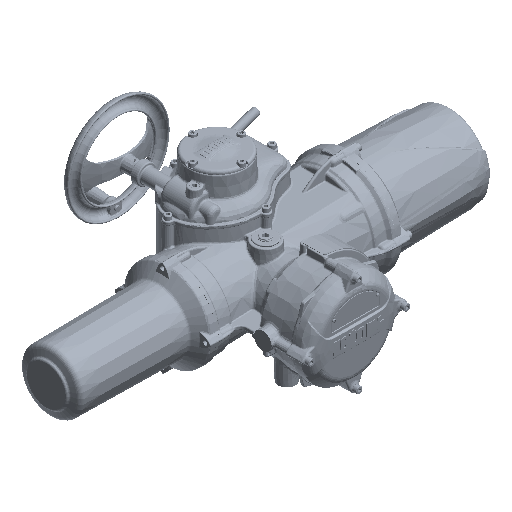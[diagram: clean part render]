
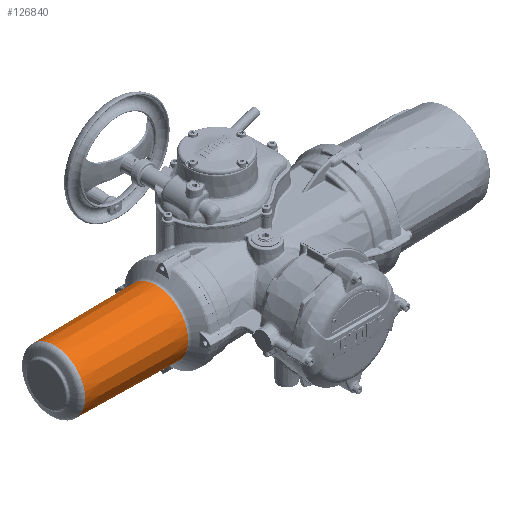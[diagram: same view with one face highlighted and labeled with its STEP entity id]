
A CAD part, isometric view. The second image highlights one B-rep face of the part: STEP entity #126840.
In plain terms, the highlighted conical face has half-angle 0.75 degrees and reference radius 65.5 mm.
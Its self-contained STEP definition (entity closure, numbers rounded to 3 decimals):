
#352=CONICAL_SURFACE('',#132921,65.5,0.013);
#11440=B_SPLINE_CURVE_WITH_KNOTS('',3,(#181118,#181119,#181120,#181121,
#181122,#181123,#181124,#181125,#181126,#181127,#181128,#181129,#181130,
#181131,#181132,#181133,#181134,#181135,#181136,#181137,#181138,#181139,
#181140,#181141,#181142,#181143,#181144,#181145,#181146,#181147),
 .UNSPECIFIED.,.T.,.F.,(1,1,1,1,1,1,1,1,1,1,1,1,1,1,1,1,1,1,1,1,1,1,1,1,
1,1,1,1,1,1,1,1,1,1),(-0.016,-0.013,-0.006,
0.,0.003,0.006,0.01,0.013,
0.016,0.019,0.022,0.026,
0.029,0.032,0.035,0.038,
0.042,0.045,0.051,0.058,
0.064,0.067,0.07,0.074,
0.077,0.08,0.083,0.086,
0.09,0.096,0.102,0.106,
0.109,0.112),.UNSPECIFIED.);
#20127=ORIENTED_EDGE('',*,*,#46274,.T.);
#20128=ORIENTED_EDGE('',*,*,#46273,.T.);
#20129=ORIENTED_EDGE('',*,*,#46272,.F.);
#46272=EDGE_CURVE('',#59534,#59534,#67417,.T.);
#46273=EDGE_CURVE('',#59535,#59535,#11440,.T.);
#46274=EDGE_CURVE('',#59536,#59536,#67418,.F.);
#59534=VERTEX_POINT('',#181021);
#59535=VERTEX_POINT('',#181148);
#59536=VERTEX_POINT('',#181151);
#67417=CIRCLE('',#132920,62.731);
#67418=CIRCLE('',#132922,65.464);
#72354=EDGE_LOOP('',(#20127));
#72355=EDGE_LOOP('',(#20128));
#72356=EDGE_LOOP('',(#20129));
#78644=FACE_BOUND('',#72354,.T.);
#78645=FACE_BOUND('',#72355,.T.);
#78646=FACE_BOUND('',#72356,.T.);
#126840=ADVANCED_FACE('',(#78644,#78645,#78646),#352,.T.);
#132920=AXIS2_PLACEMENT_3D('',#181020,#142616,#142617);
#132921=AXIS2_PLACEMENT_3D('',#181149,#142618,#142619);
#132922=AXIS2_PLACEMENT_3D('',#181150,#142620,#142621);
#142616=DIRECTION('',(-1.,0.,0.));
#142617=DIRECTION('',(0.,0.,1.));
#142618=DIRECTION('',(1.,0.,0.));
#142619=DIRECTION('',(0.,0.,-1.));
#142620=DIRECTION('',(1.,0.,0.));
#142621=DIRECTION('',(0.,0.,-1.));
#181020=CARTESIAN_POINT('',(-393.347,-60.,0.));
#181021=CARTESIAN_POINT('',(-393.347,-60.,62.731));
#181118=CARTESIAN_POINT('',(-261.185,-51.356,-63.957));
#181119=CARTESIAN_POINT('',(-265.153,-47.6,-63.222));
#181120=CARTESIAN_POINT('',(-268.938,-45.634,-62.74));
#181121=CARTESIAN_POINT('',(-272.024,-44.68,-62.47));
#181122=CARTESIAN_POINT('',(-275.207,-44.28,-62.326));
#181123=CARTESIAN_POINT('',(-278.455,-44.439,-62.323));
#181124=CARTESIAN_POINT('',(-281.574,-45.145,-62.455));
#181125=CARTESIAN_POINT('',(-284.565,-46.412,-62.706));
#181126=CARTESIAN_POINT('',(-287.218,-48.163,-63.03));
#181127=CARTESIAN_POINT('',(-289.536,-50.431,-63.388));
#181128=CARTESIAN_POINT('',(-291.318,-53.067,-63.712));
#181129=CARTESIAN_POINT('',(-292.536,-56.078,-63.957));
#181130=CARTESIAN_POINT('',(-293.057,-59.268,-64.067));
#181131=CARTESIAN_POINT('',(-292.86,-62.496,-64.025));
#181132=CARTESIAN_POINT('',(-291.946,-65.617,-63.836));
#181133=CARTESIAN_POINT('',(-289.876,-69.388,-63.44));
#181134=CARTESIAN_POINT('',(-285.928,-73.141,-62.81));
#181135=CARTESIAN_POINT('',(-279.883,-75.598,-62.296));
#181136=CARTESIAN_POINT('',(-274.446,-75.802,-62.317));
#181137=CARTESIAN_POINT('',(-270.242,-74.842,-62.61));
#181138=CARTESIAN_POINT('',(-267.3,-73.596,-62.936));
#181139=CARTESIAN_POINT('',(-264.607,-71.813,-63.335));
#181140=CARTESIAN_POINT('',(-262.339,-69.592,-63.745));
#181141=CARTESIAN_POINT('',(-260.523,-66.905,-64.121));
#181142=CARTESIAN_POINT('',(-259.331,-63.943,-64.39));
#181143=CARTESIAN_POINT('',(-258.799,-60.726,-64.516));
#181144=CARTESIAN_POINT('',(-259.068,-56.411,-64.452));
#181145=CARTESIAN_POINT('',(-261.185,-51.356,-63.957));
#181146=CARTESIAN_POINT('',(-265.153,-47.6,-63.222));
#181147=CARTESIAN_POINT('',(-268.938,-45.634,-62.74));
#181148=CARTESIAN_POINT('',(-266.15,-47.195,-63.111));
#181149=CARTESIAN_POINT('',(-181.857,-60.,0.));
#181150=CARTESIAN_POINT('',(-184.607,-60.,0.));
#181151=CARTESIAN_POINT('',(-184.607,-60.,-65.464));
